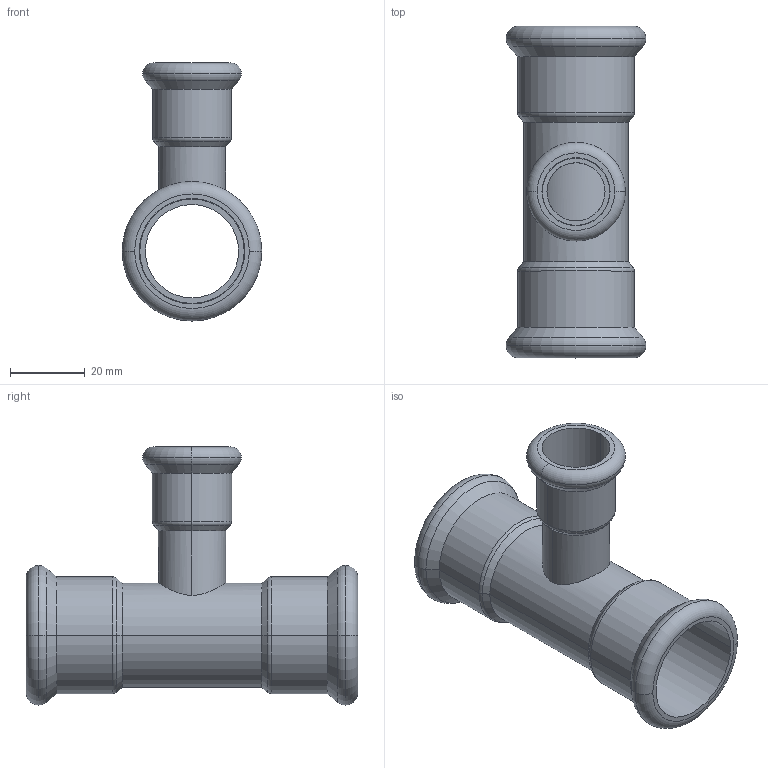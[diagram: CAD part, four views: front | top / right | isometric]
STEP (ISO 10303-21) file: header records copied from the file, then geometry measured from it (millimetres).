
FILE_DESCRIPTION(('CoCreate Modeling STEP Export'),'2;1');
FILE_NAME('C1415 28x18x28.stp','2014-11-11T17:09:57',(''),(''),'CoCreate Modeling STEP processor for AP214 (Solid Model)','CoCreate Modeling 17.00A 17-Jun-2010 (C) Parametric Technology GmbH','');
FILE_SCHEMA(('AUTOMOTIVE_DESIGN { 1 0 10303 214 1 1 1 1 }'));
Length unit declared in the file: millimetre
Products named in the file (2): C1415_28x18x28
Assembly tree (1 placements, depth 2):
  C1415_28x18x28
    C1415_28x18x28
Bounding box: 37.45 x 89 x 69.22 mm (x, y, z)
Volume: 20047.5 mm3; surface area: 22240.6 mm2
Topology: 1 solids, 1 shells, 66 faces, 135 edges, 79 vertices
Faces by surface type: cylinder 27, torus 18, cone 12, plane 9
Entity records: 2466 total; most frequent: CARTESIAN_POINT 1235, ORIENTED_EDGE 270, DIRECTION 220, EDGE_CURVE 135, AXIS2_PLACEMENT_3D 91, VERTEX_POINT 79, EDGE_LOOP 76, FACE_OUTER_BOUND 66
